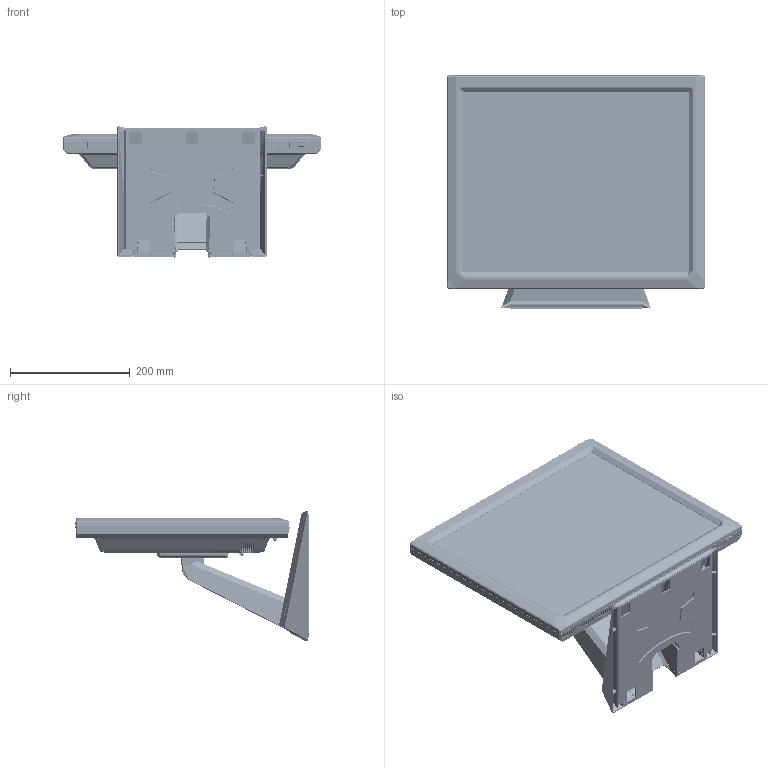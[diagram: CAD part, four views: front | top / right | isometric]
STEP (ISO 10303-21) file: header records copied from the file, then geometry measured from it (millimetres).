
FILE_DESCRIPTION (( 'STEP AP203' ), '1' );
FILE_NAME ('997-5971-01_A_PT1945R.STEP', '2021-07-26T16:30:35', ( '' ), ( '' ), 'SwSTEP 2.0', 'SolidWorks 2019', '' );
FILE_SCHEMA (( 'CONFIG_CONTROL_DESIGN' ));
Products named in the file (1): 997-5971-01_A_PT1945R
Bounding box: 431.8 x 389.85 x 218.93 mm (x, y, z)
Topology: 0 solids, 33 shells, 18055 faces, 49108 edges, 31209 vertices
Faces by surface type: plane 9884, cylinder 5890, bspline 1522, torus 481, cone 237, sphere 41
Full cylindrical faces by diameter (mm): 1.2 x2, 3 x2, 4 x2
Entity records: 775260 total; most frequent: CARTESIAN_POINT 361200, ORIENTED_EDGE 98167, DIRECTION 69059, EDGE_CURVE 49091, VERTEX_POINT 31201, VECTOR 23479, LINE 23479, AXIS2_PLACEMENT_3D 22790
